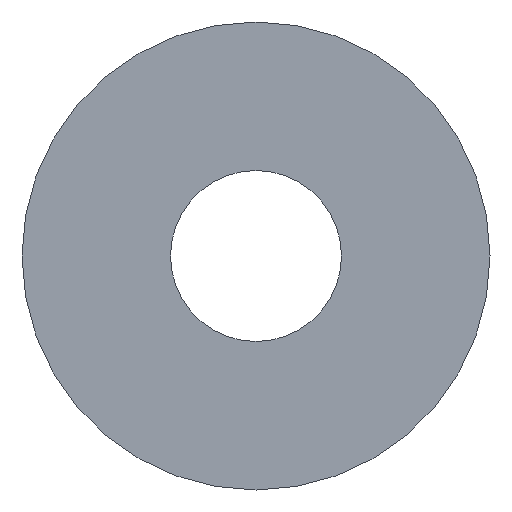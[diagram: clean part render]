
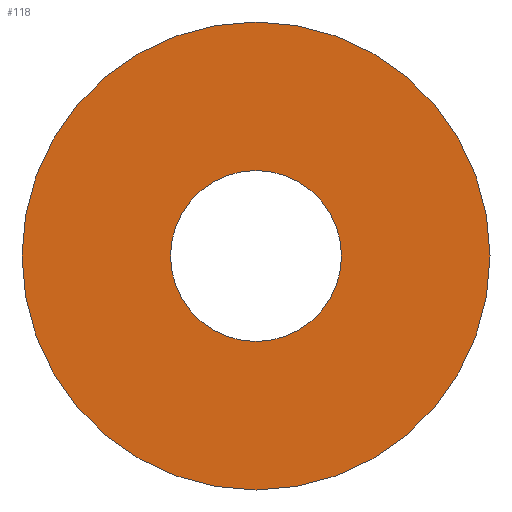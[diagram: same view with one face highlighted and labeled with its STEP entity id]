
A CAD part, front view. The second image highlights one B-rep face of the part: STEP entity #118.
In plain terms, the highlighted planar face has unit normal (0, -1, 0).
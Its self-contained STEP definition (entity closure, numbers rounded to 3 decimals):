
#1 = EDGE_CURVE ( 'NONE', #59, #138, #64, .T. ) ;
#23 = CIRCLE ( 'NONE', #170, 292.5 ) ;
#30 = AXIS2_PLACEMENT_3D ( 'NONE', #173, #71, #149 ) ;
#32 = DIRECTION ( 'NONE',  ( 0., 0., 1. ) ) ;
#33 = CARTESIAN_POINT ( 'NONE',  ( 0., 0., 0. ) ) ;
#45 = CARTESIAN_POINT ( 'NONE',  ( 0., 0., 800.5 ) ) ;
#46 = FACE_OUTER_BOUND ( 'NONE', #98, .T. ) ;
#47 = AXIS2_PLACEMENT_3D ( 'NONE', #33, #112, #151 ) ;
#54 = CARTESIAN_POINT ( 'NONE',  ( 0., 0., 292.5 ) ) ;
#55 = EDGE_LOOP ( 'NONE', ( #67, #129 ) ) ;
#59 = VERTEX_POINT ( 'NONE', #45 ) ;
#64 = CIRCLE ( 'NONE', #75, 800.5 ) ;
#67 = ORIENTED_EDGE ( 'NONE', *, *, #171, .T. ) ;
#71 = DIRECTION ( 'NONE',  ( 0., 1., 0. ) ) ;
#75 = AXIS2_PLACEMENT_3D ( 'NONE', #169, #188, #127 ) ;
#77 = ORIENTED_EDGE ( 'NONE', *, *, #145, .F. ) ;
#79 = CARTESIAN_POINT ( 'NONE',  ( 0., 0., 0. ) ) ;
#82 = ORIENTED_EDGE ( 'NONE', *, *, #1, .F. ) ;
#92 = CARTESIAN_POINT ( 'NONE',  ( 0., 0., -800.5 ) ) ;
#98 = EDGE_LOOP ( 'NONE', ( #77, #82 ) ) ;
#112 = DIRECTION ( 'NONE',  ( 0., 1., 0. ) ) ;
#117 = DIRECTION ( 'NONE',  ( 0., 1., 0. ) ) ;
#118 = ADVANCED_FACE ( 'NONE', ( #46, #204 ), #208, .F. ) ;
#127 = DIRECTION ( 'NONE',  ( 0., 0., 1. ) ) ;
#129 = ORIENTED_EDGE ( 'NONE', *, *, #242, .T. ) ;
#130 = AXIS2_PLACEMENT_3D ( 'NONE', #143, #238, #32 ) ;
#134 = DIRECTION ( 'NONE',  ( 0., 0., 1. ) ) ;
#138 = VERTEX_POINT ( 'NONE', #92 ) ;
#143 = CARTESIAN_POINT ( 'NONE',  ( 0., 0., 0. ) ) ;
#145 = EDGE_CURVE ( 'NONE', #138, #59, #148, .T. ) ;
#148 = CIRCLE ( 'NONE', #30, 800.5 ) ;
#149 = DIRECTION ( 'NONE',  ( 0., 0., 1. ) ) ;
#151 = DIRECTION ( 'NONE',  ( 0., 0., 1. ) ) ;
#152 = CARTESIAN_POINT ( 'NONE',  ( 0., 0., -292.5 ) ) ;
#169 = CARTESIAN_POINT ( 'NONE',  ( 0., 0., 0. ) ) ;
#170 = AXIS2_PLACEMENT_3D ( 'NONE', #79, #117, #134 ) ;
#171 = EDGE_CURVE ( 'NONE', #217, #247, #249, .T. ) ;
#173 = CARTESIAN_POINT ( 'NONE',  ( 0., 0., 0. ) ) ;
#188 = DIRECTION ( 'NONE',  ( 0., 1., 0. ) ) ;
#204 = FACE_BOUND ( 'NONE', #55, .T. ) ;
#208 = PLANE ( 'NONE',  #130 ) ;
#217 = VERTEX_POINT ( 'NONE', #152 ) ;
#238 = DIRECTION ( 'NONE',  ( 0., 1., 0. ) ) ;
#242 = EDGE_CURVE ( 'NONE', #247, #217, #23, .T. ) ;
#247 = VERTEX_POINT ( 'NONE', #54 ) ;
#249 = CIRCLE ( 'NONE', #47, 292.5 ) ;
